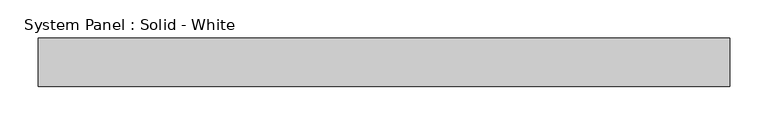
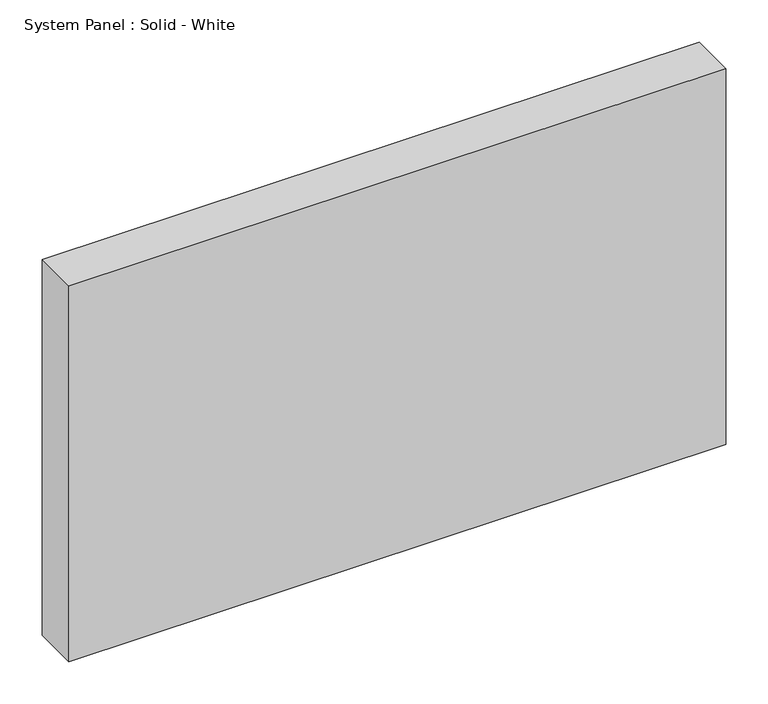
"""IFC4 building model written with IfcOpenShell, lengths in millimetres: plate geometry, System Panel : Solid - White."""

from ifc_helpers import new_model, si_unit, origin, origin_with_axes, place, context, project, spatial, polyline, outline, extrude, source, transform, mapped, element, save


def system_panel_solid_white_34ebdb4f(model_context):
    return source(origin(), model_context, "Body", "SweptSolid", [
        extrude(outline(polyline([(451.4628531, -19.05), (-451.4628531, -19.05), (-451.4628531, 44.45), (451.4628531, 44.45), (451.4628531, -19.05)])), origin_with_axes(), (0.0, 0.0, 1.0), 546.1),
    ])


if __name__ == "__main__":
    model = new_model("IFC4")
    model_context = context("Model", 3, world=origin())
    ifc_project = project(units=[si_unit("LENGTHUNIT", "METRE", prefix="MILLI")], contexts=[model_context])
    site = spatial("IfcSite", under=ifc_project)
    building = spatial("IfcBuilding", under=site)
    placement = place(None, origin())
    system_panel_solid_white_shape = system_panel_solid_white_34ebdb4f(model_context)
    element("IfcPlate", 1, ObjectType="System Panel : Solid - White", at=placement, inside=building, context=model_context, shape_type="MappedRepresentation", body=[
        mapped(system_panel_solid_white_shape, transform((0.0, 0.0, 0.0), x_axis=(1.0, 0.0, 0.0), y_axis=(0.0, 1.0, 0.0), z_axis=(0.0, 0.0, 1.0))),
    ])
    save(model, "model.ifc")
